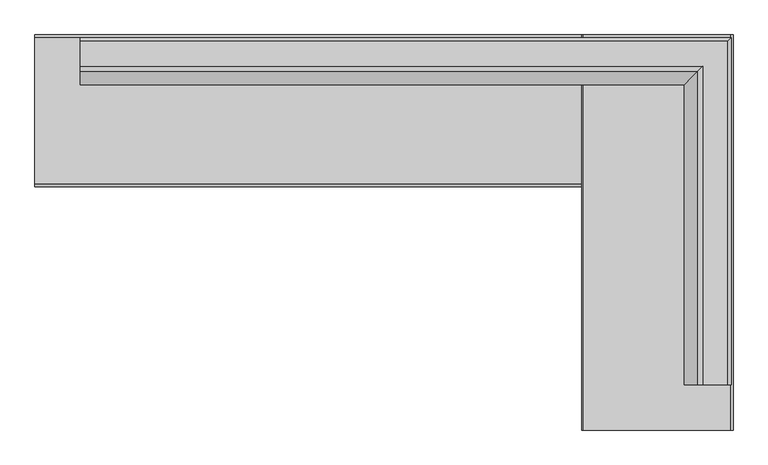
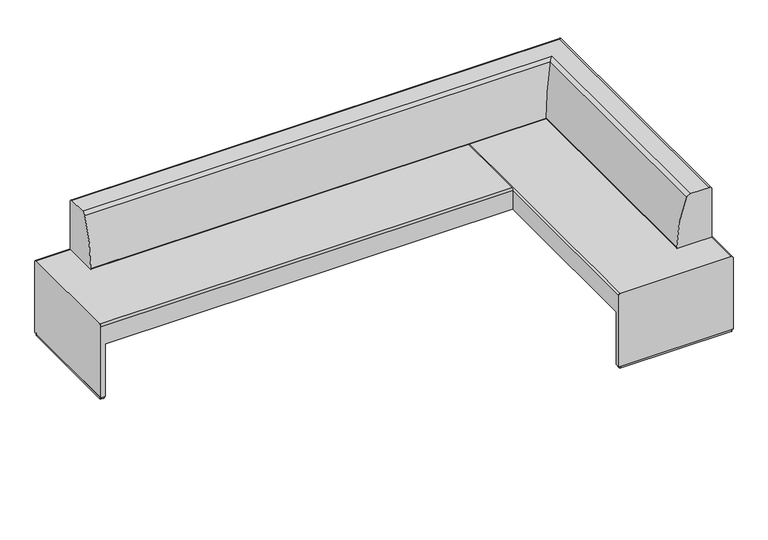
"""IFC4 building model written with IfcOpenShell, lengths in millimetres: furniture geometry, Coalesse_AM_Seating_Bench_Together_RightCorner : 8in Back Offset - 69.75D x 123.25W."""

from ifc_helpers import new_model, si_unit, point, frame, frame_2d, origin, origin_with_axes, place, context, project, spatial, polyline, circle_curve, ellipse_curve, trimmed, segment, composite_curve, outline, extrude, source, transform, mapped, element, save
from ifc_brep_helpers import plane_surface, cylinder_surface, advanced_brep


def furniture_34c33783(model_context):
    return source(origin(), model_context, "Body", "SolidModel", [
        advanced_brep(
        [(774.5287475, 3679.1834745, 461.0687949), (764.3687475, 3679.1834745, 471.2287949), (103.5774354, 3679.1834745, 471.2287949), (95.2070699, 3679.1834745, 462.8584293), (95.2070699, 3679.1834745, 12.7976677), (774.5287475, 3679.1834745, 12.7976677), (95.2070699, 5450.8334745, 343.3718099), (95.2070699, 5450.8334745, 462.8584293), (103.5774354, 5450.8334745, 471.2287949), (764.3687475, 5450.8334745, 471.2287949), (774.5287475, 5450.8334745, 461.0687949), (774.5287475, 5450.8334745, 343.3718099), (774.5287475, 3705.1751879, 343.3718099), (432.8174347, 3749.5841192, 343.3718099), (95.2070699, 3705.1751879, 343.3718099), (774.5287475, 3705.1751879, 12.7976677), (95.2070699, 3705.1751879, 12.7976677), (432.8174347, 3749.5841192, 12.7976677)],
        [
            (0, 1, circle_curve(frame((764.3687475, 3679.1834745, 461.0687949), z_axis=(0.0, -1.0, 0.0), x_axis=(-1.0, 0.0, 0.0)), 10.16)),
            (1, 2),
            (2, 3, circle_curve(frame((103.5774354, 3679.1834745, 462.8584293), z_axis=(0.0, -1.0, 0.0), x_axis=(-1.0, 0.0, 0.0)), 8.3703656)),
            (3, 4),
            (4, 5),
            (5, 0),
            (6, 7),
            (7, 8, circle_curve(frame((103.5774354, 5450.8334745, 462.8584293), z_axis=(0.0, 1.0, 0.0), x_axis=(-1.0, 0.0, 0.0)), 8.3703656)),
            (8, 9),
            (9, 10, circle_curve(frame((764.3687475, 5450.8334745, 461.0687949), z_axis=(0.0, 1.0, 0.0), x_axis=(-1.0, 0.0, 0.0)), 10.16)),
            (10, 11),
            (11, 6),
            (11, 12),
            (12, 13),
            (13, 14),
            (14, 6),
            (5, 15),
            (15, 12),
            (10, 0),
            (9, 1),
            (8, 2),
            (7, 3),
            (14, 16),
            (16, 4),
            (17, 15),
            (16, 17),
            (13, 17),
        ],
        [
            plane_surface(frame((733.0421326, 3679.1834745, 343.3718099), z_axis=(0.0, -1.0, 0.0), x_axis=(1.0, 0.0, 0.0))),
            plane_surface(frame((733.0421326, 5450.8334745, 343.3718099), z_axis=(0.0, 1.0, 0.0), x_axis=(-1.0, 0.0, 0.0))),
            plane_surface(frame((95.2070699, 3679.1834745, 343.3718099), z_axis=(0.0, 0.0, -1.0), x_axis=(0.0, 1.0, 0.0))),
            plane_surface(frame((774.5287475, 3679.1834745, 343.3718099), z_axis=(1.0, 0.0, 0.0), x_axis=(0.0, 1.0, 0.0))),
            cylinder_surface(frame((764.3687475, 5450.8334745, 461.0687949), z_axis=(0.0, -1.0, 0.0), x_axis=(-1.0, 0.0, 0.0)), 10.16),
            plane_surface(frame((764.3687475, 3679.1834745, 471.2287949), z_axis=(0.0, 0.0, 1.0), x_axis=(0.0, 1.0, 0.0))),
            cylinder_surface(frame((103.5774354, 5450.8334745, 462.8584293), z_axis=(0.0, -1.0, 0.0), x_axis=(-1.0, 0.0, 0.0)), 8.3703656),
            plane_surface(frame((95.2070699, 3679.1834745, 462.8584293), z_axis=(-1.0, 0.0, 0.0), x_axis=(0.0, 1.0, 0.0))),
            plane_surface(frame((432.8174347, 3749.5841192, 12.7976677), z_axis=(0.0, 0.0, -1.0000000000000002), x_axis=(0.9914594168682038, 0.13041558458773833, 0.0))),
            plane_surface(frame((432.8174347, 3749.5841192, 343.3718099), z_axis=(-0.13041558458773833, 0.9914594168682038, 0.0), x_axis=(0.0, 0.0, -1.0))),
            plane_surface(frame((774.5287475, 3705.1751879, 343.3718099), z_axis=(0.12887659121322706, 0.991660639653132, 0.0), x_axis=(0.0, 0.0, -1.0))),
        ],
        [
            (0, [[1, 2, 3, 4, 5, 6]]),
            (1, [[7, 8, 9, 10, 11, 12]]),
            (2, [[-12, 13, 14, 15, 16]]),
            (3, [[-6, 17, 18, -13, -11, 19]]),
            (4, [[-1, -19, -10, 20]]),
            (5, [[-2, -20, -9, 21]]),
            (6, [[-3, -21, -8, 22]]),
            (7, [[-4, -22, -7, -16, 23, 24]]),
            (8, [[25, -17, -5, -24, 26]]),
            (9, [[-26, -23, -15, 27]]),
            (10, [[-25, -27, -14, -18]]),
        ],
    ),
        advanced_brep(
        [(-2356.0212525, 4783.2670813, 471.2287949), (-2356.0212525, 5438.3536785, 471.2287949), (-2356.0212525, 5451.0536785, 458.5287949), (-2356.0212525, 5451.0536785, 12.7976677), (-2356.0212525, 4770.5670813, 12.7976677), (-2356.0212525, 4770.5670813, 458.5287949), (95.2070699, 4783.2670813, 471.2287949), (95.2070699, 4770.5670813, 458.5287949), (95.2070699, 4770.5670813, 343.3718099), (95.2070699, 5451.0536785, 343.3718099), (95.2070699, 5451.0536785, 458.5287949), (95.2070699, 5438.3536785, 471.2287949), (-2330.1515245, 5451.0536785, 343.3718099), (-2330.1525858, 5451.0536785, 12.7976677), (-2329.8455542, 4770.5670813, 343.3718099), (-2285.5129721, 5108.4198031, 343.3718099), (-2329.8444726, 4770.5670813, 12.7976677), (-2285.5129721, 5108.4198031, 12.7976677)],
        [
            (0, 1),
            (1, 2, circle_curve(frame((-2356.0212525, 5438.3536785, 458.5287949), z_axis=(-1.0, 0.0, 0.0), x_axis=(0.0, 1.0, 0.0)), 12.7)),
            (2, 3),
            (3, 4),
            (4, 5),
            (5, 0, circle_curve(frame((-2356.0212525, 4783.2670813, 458.5287949), z_axis=(-1.0, 0.0, 0.0), x_axis=(0.0, 1.0, 0.0)), 12.7)),
            (6, 7, circle_curve(frame((95.2070699, 4783.2670813, 458.5287949), z_axis=(1.0, 0.0, 0.0), x_axis=(0.0, 1.0, 0.0)), 12.7)),
            (7, 8),
            (8, 9),
            (9, 10),
            (10, 11, circle_curve(frame((95.2070699, 5438.3536785, 458.5287949), z_axis=(1.0, 0.0, 0.0), x_axis=(0.0, 1.0, 0.0)), 12.7)),
            (11, 6),
            (0, 6),
            (11, 1),
            (10, 2),
            (9, 12),
            (12, 13),
            (13, 3),
            (8, 14),
            (14, 15),
            (15, 12),
            (4, 16),
            (16, 14),
            (7, 5),
            (17, 16),
            (13, 17),
            (15, 17),
        ],
        [
            plane_surface(frame((-2356.0212525, 5450.8334745, 471.2287949), z_axis=(-1.0, 0.0, 0.0), x_axis=(0.0, 1.0, 0.0))),
            plane_surface(frame((95.2070699, 5450.8334745, 471.2287949), z_axis=(1.0, 0.0, 0.0), x_axis=(0.0, -1.0, 0.0))),
            plane_surface(frame((-2356.0212525, 4783.2670813, 471.2287949), z_axis=(0.0, 0.0, 1.0), x_axis=(1.0, 0.0, 0.0))),
            cylinder_surface(frame((95.2070699, 5438.3536785, 458.5287949), z_axis=(-1.0, 0.0, 0.0), x_axis=(0.0, 1.0, 0.0)), 12.7),
            plane_surface(frame((-2356.0212525, 5451.0536785, 458.5287949), z_axis=(0.0, 1.0, 0.0), x_axis=(1.0, 0.0, 0.0))),
            plane_surface(frame((-2356.0212525, 5451.0536785, 343.3718099), z_axis=(0.0, 0.0, -1.0), x_axis=(1.0, 0.0, 0.0))),
            plane_surface(frame((-2356.0212525, 4770.5670813, 343.3718099), z_axis=(0.0, -1.0, 0.0), x_axis=(1.0, 0.0, 0.0))),
            cylinder_surface(frame((95.2070699, 4783.2670813, 458.5287949), z_axis=(-1.0, 0.0, 0.0), x_axis=(0.0, 1.0, 0.0)), 12.7),
            plane_surface(frame((-2330.1525858, 5451.0618248, 12.7976677), z_axis=(0.0, 0.0, -1.0), x_axis=(0.12918886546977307, -0.9916200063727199, 0.0))),
            plane_surface(frame((-2285.5129721, 5108.4198031, 343.3718099), z_axis=(0.9916200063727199, 0.12918886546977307, 0.0), x_axis=(0.0, 0.0, -1.0))),
            plane_surface(frame((-2329.8444726, 4770.5753245, 343.3718099), z_axis=(0.9915004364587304, -0.1301033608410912, 0.0), x_axis=(0.0, 0.0, -1.0))),
        ],
        [
            (0, [[1, 2, 3, 4, 5, 6]]),
            (1, [[7, 8, 9, 10, 11, 12]]),
            (2, [[-1, 13, -12, 14]]),
            (3, [[-2, -14, -11, 15]]),
            (4, [[-3, -15, -10, 16, 17, 18]]),
            (5, [[-9, 19, 20, 21, -16]]),
            (6, [[-5, 22, 23, -19, -8, 24]]),
            (7, [[-6, -24, -7, -13]]),
            (8, [[25, -22, -4, -18, 26]]),
            (9, [[-26, -17, -21, 27]]),
            (10, [[-25, -27, -20, -23]]),
        ],
    ),
        extrude(outline(composite_curve([segment(polyline([(-2285.9689643, 5113.2843855), (-2330.9693515, 4782.1665875)]), True, "CONTINUOUS"), segment(trimmed(circle_curve(frame_2d((-2337.2615092, 4783.0217198)), 6.35), [point((-2330.9693515, 4782.1665875))], [point((-2337.2666959, 4776.6717219))], False, "CARTESIAN"), True, "CONTINUOUS"), segment(polyline([(-2337.2666959, 4776.6717219), (-2349.7239607, 4776.6818969)]), True, "CONTINUOUS"), segment(trimmed(circle_curve(frame_2d((-2349.718774, 4783.0318948)), 6.35), [point((-2349.7239607, 4776.6818969))], [point((-2356.0687719, 4783.0370815))], False, "CARTESIAN"), True, "CONTINUOUS"), segment(polyline([(-2356.0687719, 4783.0370815), (-2355.5332557, 5438.6681616)]), True, "CONTINUOUS"), segment(trimmed(circle_curve(frame_2d((-2349.1832578, 5438.6629749)), 6.35), [point((-2355.5332557, 5438.6681616))], [point((-2349.1780712, 5445.0129728))], False, "CARTESIAN"), True, "CONTINUOUS"), segment(polyline([(-2349.1780712, 5445.0129728), (-2336.6550538, 5445.0027441)]), True, "CONTINUOUS"), segment(trimmed(circle_curve(frame_2d((-2336.6607966, 5437.9717942)), 7.0309522), [point((-2336.6550538, 5445.0027441))], [point((-2329.6923843, 5438.9074858))], False, "CARTESIAN"), True, "CONTINUOUS"), segment(polyline([(-2329.6923843, 5438.9074858), (-2285.9689643, 5113.2843855)]), True, "CONTINUOUS")], self_intersect=False)), origin_with_axes(), (0.0, 0.0, 1.0), 12.7976677),
        extrude(outline(composite_curve([segment(polyline([(437.4499039, 5381.2236386), (106.2954602, 5425.9535555)]), True, "CONTINUOUS"), segment(trimmed(circle_curve(frame_2d((107.1454529, 5432.2464096)), 6.35), [point((106.2954602, 5425.9535555))], [point((100.7954529, 5432.2464096))], False, "CARTESIAN"), True, "CONTINUOUS"), segment(polyline([(100.7954529, 5432.2464096), (100.7954529, 5444.7036785)]), True, "CONTINUOUS"), segment(trimmed(circle_curve(frame_2d((107.1454529, 5444.7036785)), 6.35), [point((100.7954529, 5444.7036785))], [point((107.1454529, 5451.0536785))], False, "CARTESIAN"), True, "CONTINUOUS"), segment(polyline([(107.1454529, 5451.0536785), (762.7767517, 5451.0536785)]), True, "CONTINUOUS"), segment(trimmed(circle_curve(frame_2d((762.7767517, 5444.7036785)), 6.35), [point((762.7767517, 5451.0536785))], [point((769.1267517, 5444.7036785))], False, "CARTESIAN"), True, "CONTINUOUS"), segment(polyline([(769.1267517, 5444.7036785), (769.1267517, 5432.180657)]), True, "CONTINUOUS"), segment(trimmed(circle_curve(frame_2d((762.0957995, 5432.180657)), 7.0309522), [point((769.1267517, 5432.180657))], [point((763.0371826, 5425.2130112))], False, "CARTESIAN"), True, "CONTINUOUS"), segment(polyline([(763.0371826, 5425.2130112), (437.4499039, 5381.2236386)]), True, "CONTINUOUS")], self_intersect=False)), origin_with_axes(), (0.0, 0.0, 1.0), 12.7976677),
        extrude(outline(composite_curve([segment(polyline([(437.4499039, 3749.8966001), (763.0371826, 3705.9072274)]), True, "CONTINUOUS"), segment(trimmed(circle_curve(frame_2d((762.0957995, 3698.9395817)), 7.0309522), [point((763.0371826, 3705.9072274))], [point((769.1267517, 3698.9395817))], False, "CARTESIAN"), True, "CONTINUOUS"), segment(polyline([(769.1267517, 3698.9395817), (769.1267517, 3686.4165601)]), True, "CONTINUOUS"), segment(trimmed(circle_curve(frame_2d((762.7767517, 3686.4165601)), 6.35), [point((769.1267517, 3686.4165601))], [point((762.7767517, 3680.0665601))], False, "CARTESIAN"), True, "CONTINUOUS"), segment(polyline([(762.7767517, 3680.0665601), (107.1454529, 3680.0665601)]), True, "CONTINUOUS"), segment(trimmed(circle_curve(frame_2d((107.1454529, 3686.4165601)), 6.35), [point((107.1454529, 3680.0665601))], [point((100.7954529, 3686.4165601))], False, "CARTESIAN"), True, "CONTINUOUS"), segment(polyline([(100.7954529, 3686.4165601), (100.7954529, 3698.8738291)]), True, "CONTINUOUS"), segment(trimmed(circle_curve(frame_2d((107.1454529, 3698.8738291)), 6.35), [point((100.7954529, 3698.8738291))], [point((106.2954602, 3705.1666831))], False, "CARTESIAN"), True, "CONTINUOUS"), segment(polyline([(106.2954602, 3705.1666831), (437.4499039, 3749.8966001)]), True, "CONTINUOUS")], self_intersect=False)), origin_with_axes(), (0.0, 0.0, 1.0), 12.7976677),
        extrude(outline(polyline([(432.8174347, 5380.6530339), (95.2070699, 5425.0619651), (95.2070699, 5451.0536785), (774.6302917, 5451.0536785), (774.6302917, 5425.0751618), (432.8174347, 5380.6530339)])), frame((0.0, 0.0, 12.7976677), z_axis=(0.0, 0.0, 1.0), x_axis=(1.0, 0.0, 0.0)), (0.0, 0.0, 1.0), 330.5741422),
        advanced_brep(
        [(637.9650651, 3882.3834745, 789.6908243), (617.0761552, 3882.3834745, 775.9296487), (556.0897813, 3882.3834745, 477.5628851), (562.4397614, 3882.3834745, 471.2287949), (765.057783, 3882.3834745, 471.2287949), (765.819783, 3882.3834745, 471.9907949), (765.819783, 3882.3834745, 774.0501793), (750.179138, 3882.3834745, 789.6908243), (637.9650651, 5309.7765091, 789.6908243), (617.0761552, 5288.8875992, 775.9296487), (556.0897813, 5227.9012254, 477.5628851), (562.4397614, 5234.2512054, 471.2287949), (-2152.8212525, 5234.2512054, 471.2287949), (-2152.8212525, 5436.869227, 471.2287949), (765.057783, 5436.869227, 471.2287949), (765.819783, 5437.631227, 471.9907949), (765.819783, 5437.631227, 774.0501793), (750.179138, 5421.990582, 789.6908243), (-2152.8212525, 5421.990582, 789.6908243), (-2152.8212525, 5309.7765091, 789.6908243), (-2152.8212525, 5437.631227, 774.0501793), (-2152.8212525, 5437.631227, 471.9907949), (-2152.8212525, 5227.9012254, 477.5628851), (-2152.8212525, 5288.8875992, 775.9296487)],
        [
            (0, 1, circle_curve(frame((637.9650651, 3882.3834745, 766.9559749), z_axis=(0.0, -1.0, 0.0), x_axis=(-1.0, 0.0, 0.0)), 22.7348495)),
            (1, 2, circle_curve(frame((1307.2331615, 3882.3834745, 479.4448666), z_axis=(0.0, -1.0, 0.0), x_axis=(-1.0, 0.0, 0.0)), 751.1457378)),
            (2, 3, circle_curve(frame((562.4397614, 3882.3834745, 477.5787949), z_axis=(0.0, -1.0, 0.0), x_axis=(-1.0, 0.0, 0.0)), 6.35)),
            (3, 4),
            (4, 5, circle_curve(frame((765.057783, 3882.3834745, 471.9907949), z_axis=(0.0, -1.0, 0.0), x_axis=(-1.0, 0.0, 0.0)), 0.762)),
            (5, 6),
            (6, 7, circle_curve(frame((750.179138, 3882.3834745, 774.0501793), z_axis=(0.0, -1.0, 0.0), x_axis=(-1.0, 0.0, 0.0)), 15.6406451)),
            (7, 0),
            (0, 8),
            (8, 9, ellipse_curve(frame((637.9650651, 5309.7765091, 766.9559749), z_axis=(0.7071067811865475, -0.7071067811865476, 0.0), x_axis=(-0.7071067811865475, -0.7071067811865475, 0.0)), 32.1519324, 22.7348495)),
            (9, 1),
            (9, 10, ellipse_curve(frame((1307.2331615, 5979.0446055, 479.4448666), z_axis=(0.7071067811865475, -0.7071067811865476, 0.0), x_axis=(-0.7071067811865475, -0.7071067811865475, 0.0)), 1062.2804897, 751.1457378)),
            (10, 2),
            (10, 11, ellipse_curve(frame((562.4397614, 5234.2512054, 477.5787949), z_axis=(0.7071067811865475, -0.7071067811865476, 0.0), x_axis=(-0.7071067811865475, -0.7071067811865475, 0.0)), 8.9802561, 6.35)),
            (11, 3),
            (11, 12),
            (12, 13),
            (13, 14),
            (14, 4),
            (14, 15, ellipse_curve(frame((765.057783, 5436.869227, 471.9907949), z_axis=(0.7071067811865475, -0.7071067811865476, 0.0), x_axis=(-0.7071067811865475, -0.7071067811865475, 0.0)), 1.0776307, 0.762)),
            (15, 5),
            (15, 16),
            (16, 6),
            (16, 17, ellipse_curve(frame((750.179138, 5421.990582, 774.0501793), z_axis=(0.7071067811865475, -0.7071067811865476, 0.0), x_axis=(-0.7071067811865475, -0.7071067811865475, 0.0)), 22.1192124, 15.6406451)),
            (17, 7),
            (17, 18),
            (18, 19),
            (19, 8),
            (18, 20, circle_curve(frame((-2152.8212525, 5421.990582, 774.0501793), z_axis=(-1.0, 0.0, 0.0), x_axis=(0.0, -1.0, 0.0)), 15.6406451)),
            (20, 21),
            (21, 13, circle_curve(frame((-2152.8212525, 5436.869227, 471.9907949), z_axis=(-1.0, 0.0, 0.0), x_axis=(0.0, -1.0, 0.0)), 0.762)),
            (12, 22, circle_curve(frame((-2152.8212525, 5234.2512054, 477.5787949), z_axis=(-1.0, 0.0, 0.0), x_axis=(0.0, -1.0, 0.0)), 6.35)),
            (22, 23, circle_curve(frame((-2152.8212525, 5979.0446055, 479.4448666), z_axis=(-1.0, 0.0, 0.0), x_axis=(0.0, -1.0, 0.0)), 751.1457378)),
            (23, 19, circle_curve(frame((-2152.8212525, 5309.7765091, 766.9559749), z_axis=(-1.0, 0.0, 0.0), x_axis=(0.0, -1.0, 0.0)), 22.7348495)),
            (23, 9),
            (22, 10),
            (21, 15),
            (20, 16),
        ],
        [
            plane_surface(frame((555.2553454, 3882.3834745, 0.0), z_axis=(0.0, -1.0, 0.0), x_axis=(0.0, 0.0, 1.0))),
            cylinder_surface(frame((637.9650651, 3882.3834745, 766.9559749), z_axis=(0.0, -1.0, 0.0), x_axis=(-1.0, 0.0, 0.0)), 22.7348495),
            cylinder_surface(frame((1307.2331615, 3882.3834745, 479.4448666), z_axis=(0.0, -1.0, 0.0), x_axis=(-1.0, 0.0, 0.0)), 751.1457378),
            cylinder_surface(frame((562.4397614, 3882.3834745, 477.5787949), z_axis=(0.0, -1.0, 0.0), x_axis=(-1.0, 0.0, 0.0)), 6.35),
            plane_surface(frame((562.4397614, 3882.3834745, 471.2287949), z_axis=(0.0, 0.0, -1.0), x_axis=(0.0, 1.0, 0.0))),
            cylinder_surface(frame((765.057783, 3882.3834745, 471.9907949), z_axis=(0.0, -1.0, 0.0), x_axis=(-1.0, 0.0, 0.0)), 0.762),
            plane_surface(frame((765.819783, 3882.3834745, 471.9907949), z_axis=(1.0, 0.0, 0.0), x_axis=(0.0, 1.0, 0.0))),
            cylinder_surface(frame((750.179138, 3882.3834745, 774.0501793), z_axis=(0.0, -1.0, 0.0), x_axis=(-1.0, 0.0, 0.0)), 15.6406451),
            plane_surface(frame((750.179138, 3882.3834745, 789.6908243), z_axis=(0.0, 0.0, 1.0), x_axis=(0.0, 1.0, 0.0))),
            plane_surface(frame((-2152.8212525, 5227.0667894, 0.0), z_axis=(-1.0, 0.0, 0.0), x_axis=(0.0, 0.0, 1.0))),
            cylinder_surface(frame((555.2553454, 5309.7765091, 766.9559749), z_axis=(1.0, 0.0, 0.0), x_axis=(0.0, -1.0, 0.0)), 22.7348495),
            cylinder_surface(frame((555.2553454, 5979.0446055, 479.4448666), z_axis=(1.0, 0.0, 0.0), x_axis=(0.0, -1.0, 0.0)), 751.1457378),
            cylinder_surface(frame((555.2553454, 5234.2512054, 477.5787949), z_axis=(1.0, 0.0, 0.0), x_axis=(0.0, -1.0, 0.0)), 6.35),
            cylinder_surface(frame((555.2553454, 5436.869227, 471.9907949), z_axis=(1.0, 0.0, 0.0), x_axis=(0.0, -1.0, 0.0)), 0.762),
            plane_surface(frame((765.819783, 5437.631227, 471.9907949), z_axis=(0.0, 1.0, 0.0), x_axis=(-1.0, 0.0, 0.0))),
            cylinder_surface(frame((555.2553454, 5421.990582, 774.0501793), z_axis=(1.0, 0.0, 0.0), x_axis=(0.0, -1.0, 0.0)), 15.6406451),
        ],
        [
            (0, [[1, 2, 3, 4, 5, 6, 7, 8]]),
            (1, [[-1, 9, 10, 11]]),
            (2, [[-2, -11, 12, 13]]),
            (3, [[-3, -13, 14, 15]]),
            (4, [[-4, -15, 16, 17, 18, 19]]),
            (5, [[-5, -19, 20, 21]]),
            (6, [[-6, -21, 22, 23]]),
            (7, [[-7, -23, 24, 25]]),
            (8, [[-8, -25, 26, 27, 28, -9]]),
            (9, [[-27, 29, 30, 31, -17, 32, 33, 34]]),
            (10, [[-10, -28, -34, 35]]),
            (11, [[-12, -35, -33, 36]]),
            (12, [[-14, -36, -32, -16]]),
            (13, [[-20, -18, -31, 37]]),
            (14, [[-22, -37, -30, 38]]),
            (15, [[-24, -38, -29, -26]]),
        ],
    ),
    ])


if __name__ == "__main__":
    model = new_model("IFC4")
    model_context = context("Model", 3, world=origin())
    ifc_project = project(units=[si_unit("LENGTHUNIT", "METRE", prefix="MILLI")], contexts=[model_context])
    site = spatial("IfcSite", under=ifc_project)
    building = spatial("IfcBuilding", under=site)
    placement = place(None, origin())
    furniture_shape = furniture_34c33783(model_context)
    element("IfcFurniture", 1, ObjectType="Coalesse_AM_Seating_Bench_Together_RightCorner : 8in Back Offset - 69.75D x 123.25W", at=placement, inside=building, context=model_context, shape_type="MappedRepresentation", body=[
        mapped(furniture_shape, transform((0.0, 0.0, 0.0), x_axis=(1.0, 0.0, 0.0), y_axis=(0.0, 1.0, 0.0), z_axis=(0.0, 0.0, 1.0))),
    ])
    save(model, "model.ifc")
